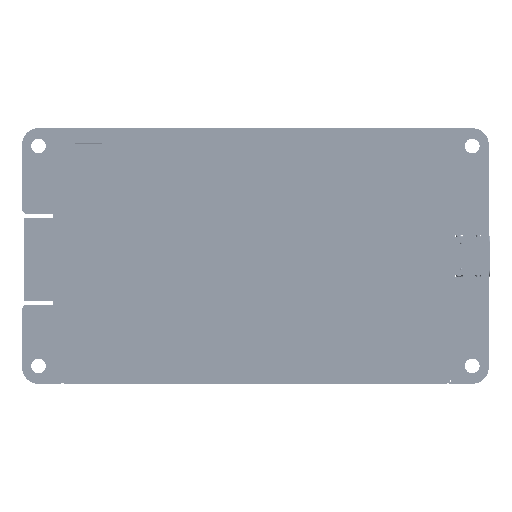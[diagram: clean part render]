
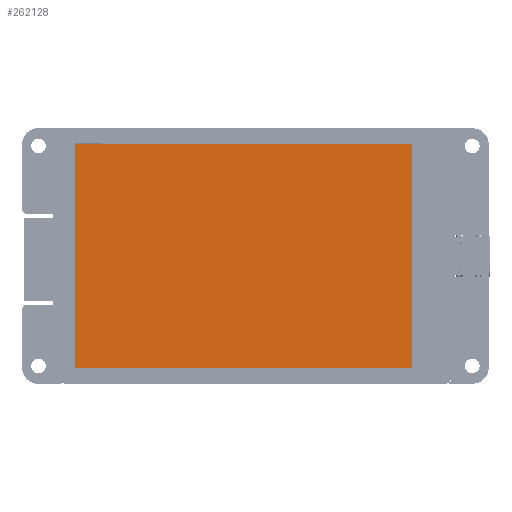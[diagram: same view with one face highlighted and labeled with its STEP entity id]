
A CAD part, top view. The second image highlights one B-rep face of the part: STEP entity #262128.
In plain terms, the highlighted planar face has unit normal (0, 0, 1).
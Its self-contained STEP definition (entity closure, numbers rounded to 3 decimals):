
#261999 = VERTEX_POINT('',#262000);
#262000 = CARTESIAN_POINT('',(-36.72,24.48,2.5));
#262006 = EDGE_CURVE('',#261999,#262007,#262009,.T.);
#262007 = VERTEX_POINT('',#262008);
#262008 = CARTESIAN_POINT('',(36.72,24.48,2.5));
#262009 = LINE('',#262010,#262011);
#262010 = CARTESIAN_POINT('',(-36.72,24.48,2.5));
#262011 = VECTOR('',#262012,1.);
#262012 = DIRECTION('',(1.,0.,0.));
#262037 = EDGE_CURVE('',#262007,#262038,#262040,.T.);
#262038 = VERTEX_POINT('',#262039);
#262039 = CARTESIAN_POINT('',(36.72,-24.48,2.5));
#262040 = LINE('',#262041,#262042);
#262041 = CARTESIAN_POINT('',(36.72,24.48,2.5));
#262042 = VECTOR('',#262043,1.);
#262043 = DIRECTION('',(0.,-1.,0.));
#262068 = EDGE_CURVE('',#262038,#262069,#262071,.T.);
#262069 = VERTEX_POINT('',#262070);
#262070 = CARTESIAN_POINT('',(-36.72,-24.48,2.5));
#262071 = LINE('',#262072,#262073);
#262072 = CARTESIAN_POINT('',(36.72,-24.48,2.5));
#262073 = VECTOR('',#262074,1.);
#262074 = DIRECTION('',(-1.,0.,0.));
#262099 = EDGE_CURVE('',#262069,#261999,#262100,.T.);
#262100 = LINE('',#262101,#262102);
#262101 = CARTESIAN_POINT('',(-36.72,-24.48,2.5));
#262102 = VECTOR('',#262103,1.);
#262103 = DIRECTION('',(0.,1.,0.));
#262128 = ADVANCED_FACE('',(#262129),#262135,.T.);
#262129 = FACE_BOUND('',#262130,.F.);
#262130 = EDGE_LOOP('',(#262131,#262132,#262133,#262134));
#262131 = ORIENTED_EDGE('',*,*,#262006,.T.);
#262132 = ORIENTED_EDGE('',*,*,#262037,.T.);
#262133 = ORIENTED_EDGE('',*,*,#262068,.T.);
#262134 = ORIENTED_EDGE('',*,*,#262099,.T.);
#262135 = PLANE('',#262136);
#262136 = AXIS2_PLACEMENT_3D('',#262137,#262138,#262139);
#262137 = CARTESIAN_POINT('',(-36.72,24.48,2.5));
#262138 = DIRECTION('',(0.,0.,1.));
#262139 = DIRECTION('',(1.,0.,0.));
